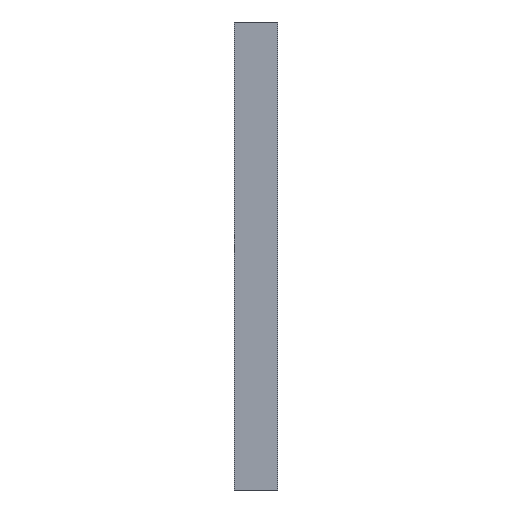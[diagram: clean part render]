
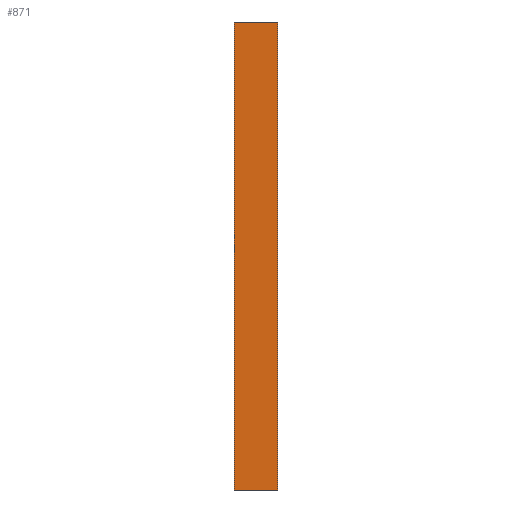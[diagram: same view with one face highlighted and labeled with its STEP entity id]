
A CAD part, left-side view. The second image highlights one B-rep face of the part: STEP entity #871.
In plain terms, the highlighted planar face has unit normal (-1, 0, -0.026).
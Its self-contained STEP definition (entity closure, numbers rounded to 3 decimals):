
#20 = LINE ( 'NONE', #1497, #484 ) ;
#61 = ORIENTED_EDGE ( 'NONE', *, *, #1737, .T. ) ;
#129 = DIRECTION ( 'NONE',  ( 0., -1., 0. ) ) ;
#170 = EDGE_CURVE ( 'NONE', #331, #935, #20, .T. ) ;
#248 = LINE ( 'NONE', #1437, #1740 ) ;
#263 = FACE_OUTER_BOUND ( 'NONE', #328, .T. ) ;
#301 = VERTEX_POINT ( 'NONE', #731 ) ;
#317 = CARTESIAN_POINT ( 'NONE',  ( -150., 11.7, 63. ) ) ;
#328 = EDGE_LOOP ( 'NONE', ( #1333, #1397, #394, #61 ) ) ;
#331 = VERTEX_POINT ( 'NONE', #573 ) ;
#394 = ORIENTED_EDGE ( 'NONE', *, *, #1741, .F. ) ;
#456 = AXIS2_PLACEMENT_3D ( 'NONE', #317, #722, #1002 ) ;
#484 = VECTOR ( 'NONE', #129, 1000. ) ;
#494 = CARTESIAN_POINT ( 'NONE',  ( -150., 0., 63. ) ) ;
#495 = CARTESIAN_POINT ( 'NONE',  ( -146.7, 11.7, -63. ) ) ;
#573 = CARTESIAN_POINT ( 'NONE',  ( -150., 11.7, 63. ) ) ;
#629 = DIRECTION ( 'NONE',  ( -0.026, 0., 1. ) ) ;
#722 = DIRECTION ( 'NONE',  ( 1., 0., 0.026 ) ) ;
#731 = CARTESIAN_POINT ( 'NONE',  ( -146.7, 0., -63. ) ) ;
#765 = VECTOR ( 'NONE', #1309, 1000. ) ;
#866 = PLANE ( 'NONE',  #456 ) ;
#871 = ADVANCED_FACE ( 'NONE', ( #263 ), #866, .F. ) ;
#935 = VERTEX_POINT ( 'NONE', #1030 ) ;
#1002 = DIRECTION ( 'NONE',  ( 0.026, 0., -1. ) ) ;
#1025 = EDGE_CURVE ( 'NONE', #301, #935, #1686, .T. ) ;
#1030 = CARTESIAN_POINT ( 'NONE',  ( -150., 0., 63. ) ) ;
#1302 = DIRECTION ( 'NONE',  ( -0.026, 0., 1. ) ) ;
#1309 = DIRECTION ( 'NONE',  ( 0., -1., 0. ) ) ;
#1333 = ORIENTED_EDGE ( 'NONE', *, *, #1025, .T. ) ;
#1397 = ORIENTED_EDGE ( 'NONE', *, *, #170, .F. ) ;
#1400 = CARTESIAN_POINT ( 'NONE',  ( -146.7, 11.7, -63. ) ) ;
#1437 = CARTESIAN_POINT ( 'NONE',  ( -150., 11.7, 63. ) ) ;
#1497 = CARTESIAN_POINT ( 'NONE',  ( -150., 11.7, 63. ) ) ;
#1542 = VERTEX_POINT ( 'NONE', #1400 ) ;
#1545 = LINE ( 'NONE', #495, #765 ) ;
#1631 = VECTOR ( 'NONE', #1302, 1000. ) ;
#1686 = LINE ( 'NONE', #494, #1631 ) ;
#1737 = EDGE_CURVE ( 'NONE', #1542, #301, #1545, .T. ) ;
#1740 = VECTOR ( 'NONE', #629, 1000. ) ;
#1741 = EDGE_CURVE ( 'NONE', #1542, #331, #248, .T. ) ;
